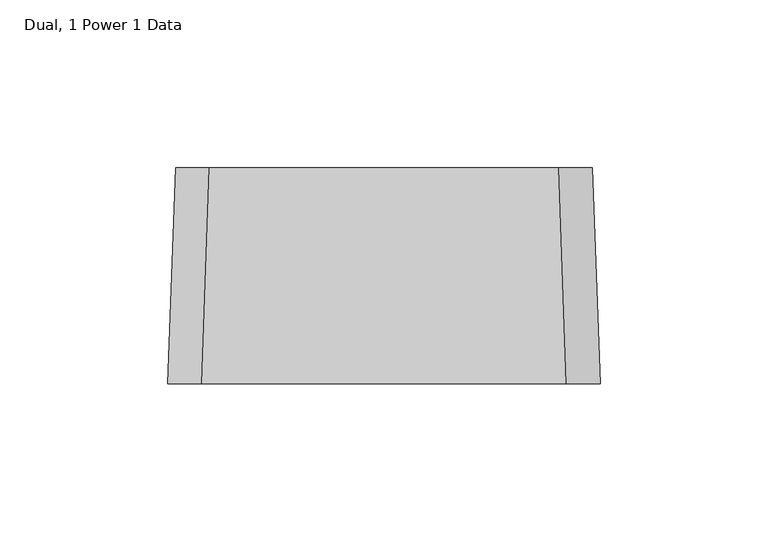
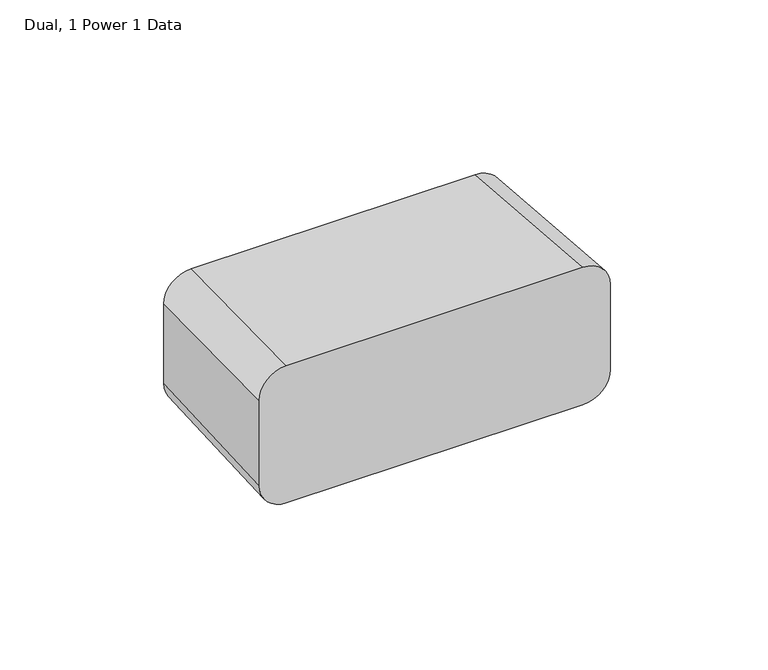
"""IFC4 building model written with IfcOpenShell, lengths in millimetres: proxy geometry, Accessory-Power_Cube-Teknion-Altos_Landscape-R2015 : Dual, 1 Power 1 Data."""

from ifc_helpers import new_model, si_unit, point, frame, origin, place, context, project, spatial, circle_curve, trimmed, source, transform, mapped, element, save
from ifc_brep_helpers import plane_surface, extruded_surface, advanced_brep


def dual_1_power_1_data_6782b69d(model_context):
    return source(origin(), model_context, "Body", "AdvancedBrep", [
        advanced_brep(
        [(64.29375, -121.025, 1109.8349345), (54.2466533, -121.025, 1119.8820313), (-54.2726563, -121.025, 1119.8820313), (-64.29375, -121.025, 1109.8609375), (-64.29375, -121.025, 1076.8210938), (-54.2726563, -121.025, 1066.8), (54.2726562, -121.025, 1066.8), (64.29375, -121.025, 1076.8210938), (62.0325311, -56.775, 1107.5489345), (62.0325311, -56.775, 1076.8210938), (52.0114374, -56.775, 1066.8), (-52.0114374, -56.775, 1066.8), (-62.0325311, -56.775, 1076.8210938), (-62.0325311, -56.775, 1107.5749375), (-52.0114374, -56.775, 1117.5960312), (51.9854344, -56.775, 1117.5960312)],
        [
            (0, 1, circle_curve(frame((54.2466533, -121.025, 1109.8349345), z_axis=(0.0, -1.0, 0.0), x_axis=(1.0, 0.0, 0.0)), 10.0470967)),
            (1, 2),
            (2, 3, circle_curve(frame((-54.2726563, -121.025, 1109.8609375), z_axis=(0.0, -1.0, 0.0), x_axis=(1.0, 0.0, 0.0)), 10.0210938)),
            (3, 4),
            (4, 5, circle_curve(frame((-54.2726563, -121.025, 1076.8210938), z_axis=(0.0, -1.0, 0.0), x_axis=(1.0, 0.0, 0.0)), 10.0210938)),
            (5, 6),
            (6, 7, circle_curve(frame((54.2726562, -121.025, 1076.8210938), z_axis=(0.0, -1.0, 0.0), x_axis=(1.0, 0.0, 0.0)), 10.0210938)),
            (7, 0),
            (8, 9),
            (9, 10, circle_curve(frame((52.0114374, -56.775, 1076.8210938), z_axis=(0.0, 1.0, 0.0), x_axis=(1.0, 0.0, 0.0)), 10.0210938)),
            (10, 11),
            (11, 12, circle_curve(frame((-52.0114374, -56.775, 1076.8210938), z_axis=(0.0, 1.0, 0.0), x_axis=(1.0, 0.0, 0.0)), 10.0210938)),
            (12, 13),
            (13, 14, circle_curve(frame((-52.0114374, -56.775, 1107.5749375), z_axis=(0.0, 1.0, 0.0), x_axis=(1.0, 0.0, 0.0)), 10.0210938)),
            (14, 15),
            (15, 8, circle_curve(frame((51.9854344, -56.775, 1107.5489345), z_axis=(0.0, 1.0, 0.0), x_axis=(1.0, 0.0, 0.0)), 10.0470967)),
            (15, 1),
            (0, 8),
            (14, 2),
            (13, 3),
            (12, 4),
            (11, 5),
            (10, 6),
            (9, 7),
        ],
        [
            plane_surface(frame((-0.0032504, -121.025, 1093.3377653), z_axis=(0.0, -1.0, 0.0), x_axis=(0.0, 0.0, 1.0))),
            plane_surface(frame((-0.0032504, -56.775, 1092.1947653), z_axis=(0.0, 1.0, 0.0), x_axis=(0.0, 0.0, 1.0))),
            extruded_surface(trimmed(circle_curve(frame((51.9854344, -56.775, 1107.5489345), z_axis=(0.0, -1.0, 0.0), x_axis=(1.0, 0.0, 0.0)), 10.0470967), [point((62.0325311, -56.775, 1107.5489345))], [point((51.9854344, -56.775, 1117.5960313))], True, "CARTESIAN"), (2.261218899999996, -64.25, 2.285999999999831), 64.33040810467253),
            plane_surface(frame((-0.0130015, -56.775, 1117.5960312), z_axis=(0.0, 0.03555726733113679, 0.9993676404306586), x_axis=(-1.0, 0.0, 0.0))),
            extruded_surface(trimmed(circle_curve(frame((-52.0114374, -56.775, 1107.5749375), z_axis=(0.0, -1.0, 0.0), x_axis=(1.0, 0.0, 0.0)), 10.0210938), [point((-52.0114374, -56.775, 1117.5960312))], [point((-62.0325311, -56.775, 1107.5749375))], True, "CARTESIAN"), (-2.261218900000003, -64.25, 2.286000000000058), 64.33040810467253),
            plane_surface(frame((-62.0325311, -56.775, 1092.1980156), z_axis=(-0.9993812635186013, 0.03517229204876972, 0.0), x_axis=(0.0, 0.0, -1.0))),
            extruded_surface(trimmed(circle_curve(frame((-52.0114374, -56.775, 1076.8210938), z_axis=(0.0, -1.0, 0.0), x_axis=(1.0, 0.0, 0.0)), 10.0210938), [point((-62.0325311, -56.775, 1076.8210938))], [point((-52.0114374, -56.775, 1066.8))], True, "CARTESIAN"), (-2.261218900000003, -64.25, 0.0), 64.28977843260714),
            plane_surface(frame((0.0, -56.775, 1066.8), z_axis=(0.0, 0.0, -1.0), x_axis=(1.0, 0.0, 0.0))),
            extruded_surface(trimmed(circle_curve(frame((52.0114374, -56.775, 1076.8210938), z_axis=(0.0, -1.0, 0.0), x_axis=(1.0, 0.0, 0.0)), 10.0210938), [point((52.0114374, -56.775, 1066.8))], [point((62.0325311, -56.775, 1076.8210938))], True, "CARTESIAN"), (2.2612188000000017, -64.25, 0.0), 64.2897784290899),
            plane_surface(frame((62.0325311, -56.775, 1092.1850141), z_axis=(0.999381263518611, 0.03517229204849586, 0.0), x_axis=(0.0, 0.0, 1.0))),
        ],
        [
            (0, [[1, 2, 3, 4, 5, 6, 7, 8]]),
            (1, [[9, 10, 11, 12, 13, 14, 15, 16]]),
            (2, [[-16, 17, -1, 18]]),
            (3, [[-15, 19, -2, -17]]),
            (4, [[-14, 20, -3, -19]]),
            (5, [[-13, 21, -4, -20]]),
            (6, [[-12, 22, -5, -21]]),
            (7, [[-11, 23, -6, -22]]),
            (8, [[-10, 24, -7, -23]]),
            (9, [[-9, -18, -8, -24]]),
        ],
    ),
    ])


if __name__ == "__main__":
    model = new_model("IFC4")
    model_context = context("Model", 3, world=origin())
    ifc_project = project(units=[si_unit("LENGTHUNIT", "METRE", prefix="MILLI")], contexts=[model_context])
    site = spatial("IfcSite", under=ifc_project)
    building = spatial("IfcBuilding", under=site)
    placement = place(None, origin())
    dual_1_power_1_data_shape = dual_1_power_1_data_6782b69d(model_context)
    element("IfcBuildingElementProxy", 1, Name="Accessory-Power_Cube-Teknion-Altos_Landscape-R2015 : Dual, 1 Power 1 Data", ObjectType="Accessory-Power_Cube-Teknion-Altos_Landscape-R2015 : Dual, 1 Power 1 Data", at=placement, inside=building, context=model_context, shape_type="MappedRepresentation", body=[
        mapped(dual_1_power_1_data_shape, transform((0.0, 0.0, 0.0), x_axis=(1.0, 0.0, 0.0), y_axis=(0.0, 1.0, 0.0), z_axis=(0.0, 0.0, 1.0))),
    ])
    save(model, "model.ifc")
